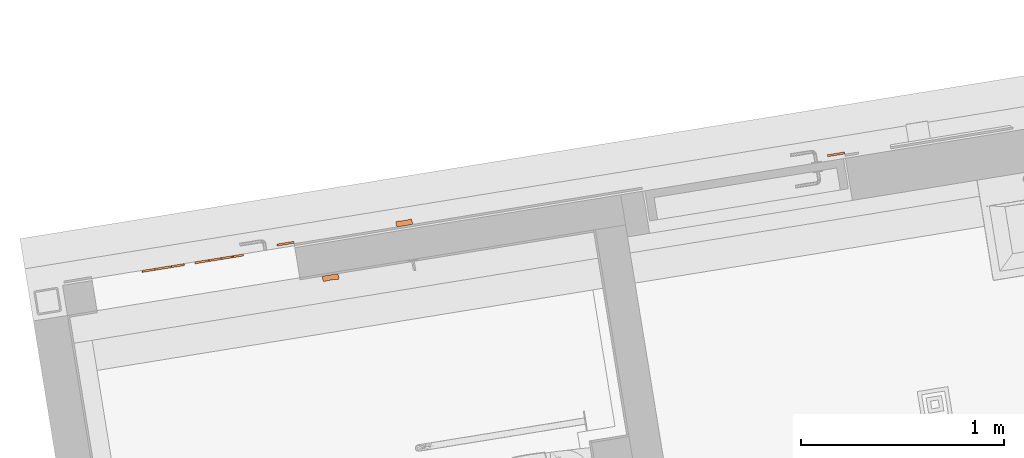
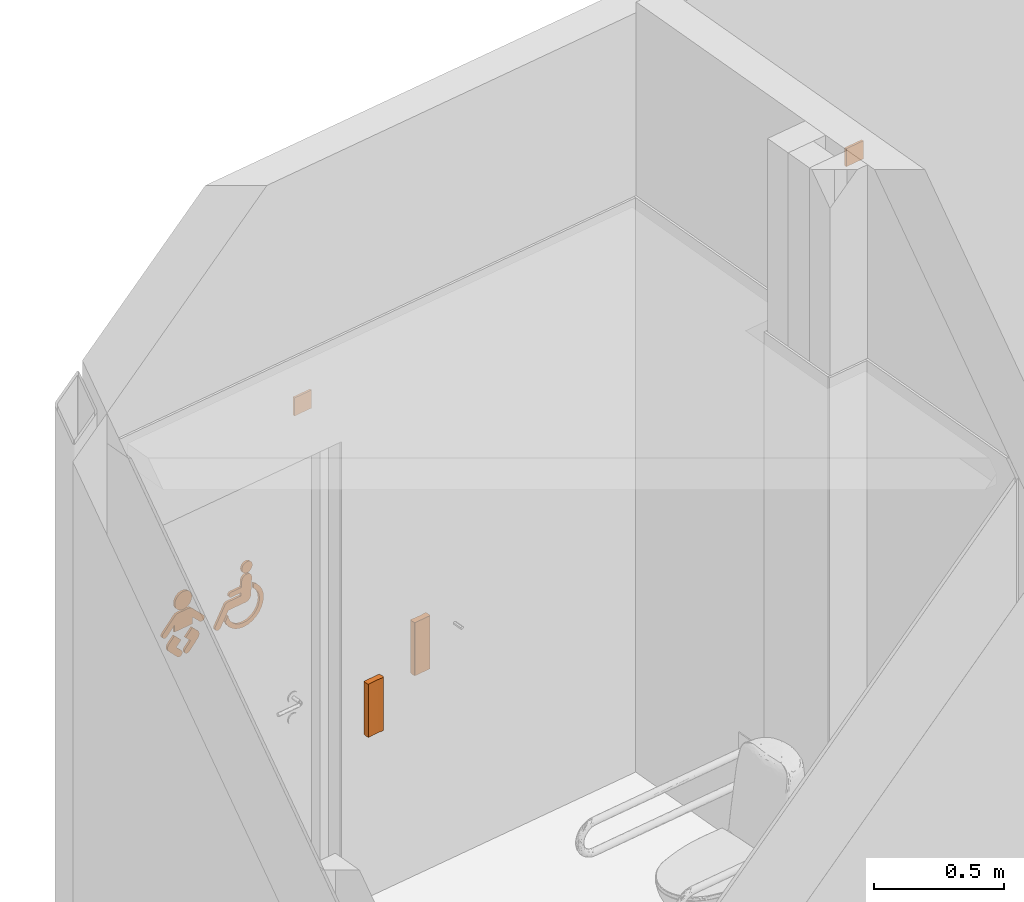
# One storey, part 38 of 38: 6 proxies.
"""IFC2X3 building model written with IfcOpenShell, lengths in millimetres."""

from ifc_helpers import new_model, entity, si_unit, converted_unit, derived_unit, direction, frame, frame_2d, origin, origin_with_axes, place, context, subcontext, project, spatial, polyline, circle_curve, parameter, trimmed, segment, composite_curve, rectangle, circle, outline, extrude, source, transform, mapped, material, material_list, type_object, element, save


model = new_model("IFC2X3")

# Units and contexts
model_context = context("Model", 3, precision=0.01, world=origin(), true_north=direction((6.12323399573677e-17, 1.0)))
plan_context = context("Plan", 3, precision=1e-05, world=origin_with_axes())
body_context = subcontext(model_context, "Body", "Model", "MODEL_VIEW")
ifc_project = project(units=[converted_unit("PLANEANGLEUNIT", "DEGREE", entity("IfcPositiveLengthMeasure", 0.0174532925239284), si_unit("PLANEANGLEUNIT", "RADIAN"), dimensions=[0, 0, 0, 0, 0, 0, 0]), si_unit("AREAUNIT", "SQUARE_METRE"), si_unit("LENGTHUNIT", "METRE", prefix="MILLI"), si_unit("MASSUNIT", "GRAM", prefix="KILO"), si_unit("POWERUNIT", "WATT"), si_unit("PRESSUREUNIT", "PASCAL", prefix="KILO"), si_unit("FORCEUNIT", "NEWTON", prefix="KILO"), si_unit("ELECTRICVOLTAGEUNIT", "VOLT"), si_unit("ELECTRICCURRENTUNIT", "AMPERE"), si_unit("THERMODYNAMICTEMPERATUREUNIT", "DEGREE_CELSIUS"), si_unit("TIMEUNIT", "SECOND"), si_unit("VOLUMEUNIT", "CUBIC_METRE"), derived_unit("LINEARVELOCITYUNIT", [(si_unit("LENGTHUNIT", "METRE"), 1), (si_unit("TIMEUNIT", "SECOND"), -1)]), derived_unit("VOLUMETRICFLOWRATEUNIT", [(si_unit("VOLUMEUNIT", "CUBIC_METRE"), 1), (si_unit("TIMEUNIT", "SECOND"), -1)]), derived_unit("THERMALTRANSMITTANCEUNIT", [(si_unit("POWERUNIT", "WATT"), 1), (si_unit("THERMODYNAMICTEMPERATUREUNIT", "KELVIN"), -1), (si_unit("AREAUNIT", "SQUARE_METRE"), -1)]), derived_unit("SOUNDPRESSUREUNIT", [(si_unit("PRESSUREUNIT", "PASCAL"), 1)])], contexts=[model_context, plan_context])

# Site, building, storey
site_placement = place(None, frame((-0.00071070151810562, 0.00438415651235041, 0.0), z_axis=(0.0, 0.0, 1.0), x_axis=(-0.160236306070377, 0.987078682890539, 0.0)))
site = spatial("IfcSite", under=ifc_project, at=site_placement, Name="Default", CompositionType="ELEMENT")
building_placement = place(site_placement, origin_with_axes())
building = spatial("IfcBuilding", under=site, at=building_placement, Name="TOO", CompositionType="ELEMENT")
storey_placement = place(building_placement, frame((0.0, 0.0, 50999.9999999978), z_axis=(0.0, 0.0, 1.0), x_axis=(1.0, 0.0, 0.0)))
storey = spatial("IfcBuildingStorey", under=building, at=storey_placement, Name="Nivå D-H01", CompositionType="ELEMENT", Elevation=50999.9999999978)

# Proxies
ifc_material_1 = material(Name="<Unnamed>")
building_element_proxy_type_1 = type_object("IfcBuildingElementProxyType", Name="274-stikkontakt (306):274-stikkontakt (306)", PredefinedType="NOTDEFINED", material=ifc_material_1)
shared_shape_1 = source(origin(), body_context, "Body", "SweptSolid", [
    extrude(rectangle(XDim=85.0, YDim=9.99999999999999, at=frame_2d((1.06581410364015e-14, 0.0), x_axis=(1.0, 0.0))), frame((125.0, 11.5, 1000.0), z_axis=(0.0, 0.0, 1.0), x_axis=(-1.0, 0.0, 0.0)), (0.0, 0.0, 1.0), 84.9999999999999),
])
for number, where, z_axis, x_axis in (
    (1, (779957.619644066, -590052.138231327, 1260.0), (0.0, 0.0, 1.0), (0.0, -1.0, 0.0)),
    (2, (779957.619644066, -592794.98173883, 1217.50000000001), (0.0, 0.0, 1.0), (0.0, -1.0, 0.0)),
):
    element("IfcBuildingElementProxy", number, at=place(storey_placement, frame(where, z_axis=z_axis, x_axis=x_axis)), inside=storey, type_object=building_element_proxy_type_1, material=ifc_material_1, Name="274-stikkontakt (306):274-stikkontakt (306)", ObjectType="274-stikkontakt (306):274-stikkontakt (306)", context=body_context, shape_type="MappedRepresentation", body=[
        mapped(shared_shape_1, transform((0.0, 0.0, 0.0), scale=1.0)),
    ])
ifc_material_2 = material(Name="Ramme Plast")
ifc_material_list = material_list([ifc_material_2, ifc_material_1])
building_element_proxy_type_2 = type_object("IfcBuildingElementProxyType", Name="244 - Albuebryter:244 - Albuebryter", PredefinedType="NOTDEFINED", material=ifc_material_list)
shared_shape_2 = source(origin(), body_context, "Body", "SweptSolid", [
    extrude(outline(composite_curve([segment(polyline([(-35.6080774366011, -13.960071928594), (35.6080774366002, -13.960071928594)]), True, "CONTINUOUS"), segment(trimmed(circle_curve(frame_2d((35.6080774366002, -11.2130308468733), x_axis=(-1.0, 0.0)), 2.74704108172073), [parameter(90.0000000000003)], [parameter(163.367572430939)], True, "PARAMETER"), True, "CONTINUOUS"), segment(trimmed(circle_curve(frame_2d((-2.06133847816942, 0.0399280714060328), x_axis=(-1.0, 0.0)), 42.061338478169), [parameter(163.367572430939)], [parameter(196.761246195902)], True, "PARAMETER"), True, "CONTINUOUS"), segment(trimmed(circle_curve(frame_2d((36.0078940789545, 11.5056162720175), x_axis=(-1.0, 0.0)), 2.30296233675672), [parameter(196.761246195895)], [parameter(277.35380585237)], True, "PARAMETER"), True, "CONTINUOUS"), segment(trimmed(circle_curve(frame_2d((0.0, 290.512064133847), x_axis=(-1.0, 0.0)), 279.017435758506), [parameter(82.6461941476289)], [parameter(97.3538058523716)], True, "PARAMETER"), False, "CONTINUOUS"), segment(trimmed(circle_curve(frame_2d((-36.0078940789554, 11.5056162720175), x_axis=(1.0, 0.0)), 2.30296233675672), [parameter(82.6461941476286)], [parameter(163.238753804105)], True, "PARAMETER"), True, "CONTINUOUS"), segment(trimmed(circle_curve(frame_2d((2.06133847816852, 0.0399280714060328), x_axis=(1.0, 0.0)), 42.061338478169), [parameter(163.238753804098)], [parameter(196.632427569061)], True, "PARAMETER"), True, "CONTINUOUS"), segment(trimmed(circle_curve(frame_2d((-35.6080774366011, -11.2130308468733), x_axis=(1.0, 0.0)), 2.74704108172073), [parameter(196.632427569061)], [parameter(270.0)], True, "PARAMETER"), True, "CONTINUOUS")], self_intersect=False)), frame((0.0, -13.9600719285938, 117.0), z_axis=(0.0, 0.0, 1.0), x_axis=(-1.0, 0.0, 0.0)), (0.0, 0.0, 1.0), 8.00000000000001),
    extrude(outline(composite_curve([segment(polyline([(-35.6080774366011, -13.960071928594), (35.6080774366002, -13.960071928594)]), True, "CONTINUOUS"), segment(trimmed(circle_curve(frame_2d((35.6080774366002, -11.2130308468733), x_axis=(-1.0, 0.0)), 2.74704108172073), [parameter(90.0000000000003)], [parameter(163.367572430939)], True, "PARAMETER"), True, "CONTINUOUS"), segment(trimmed(circle_curve(frame_2d((-2.06133847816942, 0.0399280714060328), x_axis=(-1.0, 0.0)), 42.061338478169), [parameter(163.367572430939)], [parameter(196.761246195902)], True, "PARAMETER"), True, "CONTINUOUS"), segment(trimmed(circle_curve(frame_2d((36.0078940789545, 11.5056162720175), x_axis=(-1.0, 0.0)), 2.30296233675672), [parameter(196.761246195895)], [parameter(277.35380585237)], True, "PARAMETER"), True, "CONTINUOUS"), segment(trimmed(circle_curve(frame_2d((0.0, 290.512064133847), x_axis=(-1.0, 0.0)), 279.017435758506), [parameter(82.6461941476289)], [parameter(97.3538058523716)], True, "PARAMETER"), False, "CONTINUOUS"), segment(trimmed(circle_curve(frame_2d((-36.0078940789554, 11.5056162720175), x_axis=(1.0, 0.0)), 2.30296233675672), [parameter(82.6461941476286)], [parameter(163.238753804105)], True, "PARAMETER"), True, "CONTINUOUS"), segment(trimmed(circle_curve(frame_2d((2.06133847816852, 0.0399280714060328), x_axis=(1.0, 0.0)), 42.061338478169), [parameter(163.238753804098)], [parameter(196.632427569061)], True, "PARAMETER"), True, "CONTINUOUS"), segment(trimmed(circle_curve(frame_2d((-35.6080774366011, -11.2130308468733), x_axis=(1.0, 0.0)), 2.74704108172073), [parameter(196.632427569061)], [parameter(270.0)], True, "PARAMETER"), True, "CONTINUOUS")], self_intersect=False)), frame((0.0, -13.9600719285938, -117.0), z_axis=(0.0, 0.0, 1.0), x_axis=(-1.0, 0.0, 0.0)), (0.0, 0.0, 1.0), 234.0),
    extrude(outline(composite_curve([segment(polyline([(-35.6080774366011, -13.960071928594), (35.6080774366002, -13.960071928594)]), True, "CONTINUOUS"), segment(trimmed(circle_curve(frame_2d((35.6080774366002, -11.2130308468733), x_axis=(-1.0, 0.0)), 2.74704108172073), [parameter(90.0000000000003)], [parameter(163.367572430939)], True, "PARAMETER"), True, "CONTINUOUS"), segment(trimmed(circle_curve(frame_2d((-2.06133847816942, 0.0399280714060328), x_axis=(-1.0, 0.0)), 42.061338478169), [parameter(163.367572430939)], [parameter(196.761246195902)], True, "PARAMETER"), True, "CONTINUOUS"), segment(trimmed(circle_curve(frame_2d((36.0078940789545, 11.5056162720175), x_axis=(-1.0, 0.0)), 2.30296233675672), [parameter(196.761246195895)], [parameter(277.35380585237)], True, "PARAMETER"), True, "CONTINUOUS"), segment(trimmed(circle_curve(frame_2d((0.0, 290.512064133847), x_axis=(-1.0, 0.0)), 279.017435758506), [parameter(82.6461941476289)], [parameter(97.3538058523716)], True, "PARAMETER"), False, "CONTINUOUS"), segment(trimmed(circle_curve(frame_2d((-36.0078940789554, 11.5056162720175), x_axis=(1.0, 0.0)), 2.30296233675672), [parameter(82.6461941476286)], [parameter(163.238753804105)], True, "PARAMETER"), True, "CONTINUOUS"), segment(trimmed(circle_curve(frame_2d((2.06133847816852, 0.0399280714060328), x_axis=(1.0, 0.0)), 42.061338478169), [parameter(163.238753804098)], [parameter(196.632427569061)], True, "PARAMETER"), True, "CONTINUOUS"), segment(trimmed(circle_curve(frame_2d((-35.6080774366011, -11.2130308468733), x_axis=(1.0, 0.0)), 2.74704108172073), [parameter(196.632427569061)], [parameter(270.0)], True, "PARAMETER"), True, "CONTINUOUS")], self_intersect=False)), frame((0.0, -13.9600719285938, -125.0), z_axis=(0.0, 0.0, 1.0), x_axis=(-1.0, 0.0, 0.0)), (0.0, 0.0, 1.0), 8.00000000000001),
])
for number, where, z_axis, x_axis, name in (
    (3, (779962.619644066, -590769.638231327, 900.0), (0.0, 0.0, 1.0), (0.0, 1.0, 0.0), "244 - Albuebryter:244 - Albuebryter"),
    (4, (779782.619644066, -590369.638231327, 900.0), (0.0, 0.0, 1.0), (0.0, -1.0, 0.0), "244 - Albuebryter:244 - Albuebryter"),
):
    element("IfcBuildingElementProxy", number, at=place(storey_placement, frame(where, z_axis=z_axis, x_axis=x_axis)), inside=storey, type_object=building_element_proxy_type_2, material=ifc_material_list, Name=name, ObjectType="244 - Albuebryter:244 - Albuebryter", context=body_context, shape_type="MappedRepresentation", body=[
        mapped(shared_shape_2, transform((0.0, 0.0, 0.0), scale=1.0)),
    ])
building_element_proxy_type_3 = type_object("IfcBuildingElementProxyType", Name="A275 - 3D FOLIE PIKTOGRAM HCWC:A275 - 3D FOLIE PIKTOGRAM HCWC", PredefinedType="NOTDEFINED", material=ifc_material_1)
shared_shape_3 = source(origin(), body_context, "Body", "SweptSolid", [
    extrude(circle(Radius=26.3594735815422, at=frame_2d((-2.11497486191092e-15, -6.76791955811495e-14), x_axis=(1.0, 0.0))), frame((-16.9408720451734, -10.0, 273.640526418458), z_axis=(0.0, 1.0, 0.0), x_axis=(1.0, 0.0, 0.0)), (0.0, 0.0, 1.0), 10.0),
    extrude(outline(polyline([(32.6332547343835, -94.8801584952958), (61.4908033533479, -94.8801584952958), (71.9215286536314, -78.2820327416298), (78.8409696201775, -60.1145728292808), (82.1007420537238, -40.9611066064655), (81.5524617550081, -21.4049619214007), (77.0477445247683, -2.02946662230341), (68.438206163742, 16.5820514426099), (54.5829998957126, 34.784209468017), (37.519333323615, 48.9128075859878), (18.0625142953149, 58.7601605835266), (-2.97214934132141, 64.1185832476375), (-24.769349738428, 64.7803903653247), (-46.5137790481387, 60.5378967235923), (-67.3901294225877, 51.1834171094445), (-84.5107995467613, 38.3544674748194), (-98.0908753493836, 22.6823320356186), (-107.96176351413, 4.83000585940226), (-113.954870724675, -14.5395159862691), (-115.901603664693, -34.763238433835), (-94.4519239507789, -23.5418199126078), (-90.2685838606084, -6.78559889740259), (-82.4871510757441, 8.7204429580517), (-71.2752156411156, 22.3190966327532), (-56.8003676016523, 33.3531531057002), (-40.2930775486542, 40.7496646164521), (-23.0986198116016, 44.1041123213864), (-5.86194416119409, 43.5806932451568), (10.771999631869, 39.3436044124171), (26.1582617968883, 31.557042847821), (39.6518925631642, 20.3852055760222), (50.6079421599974, 5.99228962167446), (57.5100168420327, -9.0001078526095), (61.0492014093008, -24.60941398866), (61.3492524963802, -40.3490740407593), (58.5339267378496, -55.7325332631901), (52.7269807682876, -70.2732369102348), (44.0521712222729, -83.4846302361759), (32.6332547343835, -94.8801584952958)])), frame((-20.6906925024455, -10.0, 67.310086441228), z_axis=(0.0, 1.0, 0.0), x_axis=(0.510647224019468, 0.0, -0.859790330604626)), (0.0, 0.0, 1.0), 10.0),
    extrude(outline(polyline([(-24.3814506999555, -35.4671127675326), (61.0721517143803, -35.4671127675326), (66.8822102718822, -34.8952009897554), (72.2819885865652, -33.1955814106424), (77.1241539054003, -30.4737174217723), (81.2613734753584, -26.8350724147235), (84.5463145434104, -22.3851097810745), (86.831644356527, -17.2292929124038), (87.9700301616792, -11.4730852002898), (92.5448372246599, 68.572490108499), (92.1652282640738, 74.4451782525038), (90.5409537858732, 79.9109238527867), (87.8089977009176, 84.8078978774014), (84.1063439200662, 88.9742712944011), (79.5699763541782, 92.2482150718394), (74.336878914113, 94.4679001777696), (68.5440355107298, 95.4714975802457), (62.6787502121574, 95.1256243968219), (57.230262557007, 93.5006817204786), (52.352975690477, 90.7477744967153), (48.2012927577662, 87.0180076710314), (44.9296169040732, 82.4624861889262), (42.6923512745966, 77.2323149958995), (41.6438990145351, 71.4785990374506), (39.9729428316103, 43.9010478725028), (-9.31574846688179, 43.9123381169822), (-12.1055382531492, 43.5091019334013), (-14.6445068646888, 42.5738088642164), (-16.8676382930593, 41.1638910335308), (-18.7099165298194, 39.3367805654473), (-20.1063255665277, 37.1499095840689), (-20.9918493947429, 34.660710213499), (-21.3014720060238, 31.9266145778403), (-20.9849764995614, 29.1992733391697), (-20.0834159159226, 26.7258342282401), (-18.6686791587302, 24.5569749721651), (-16.8126551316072, 22.7433732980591), (-14.5872327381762, 21.3357069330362), (-12.0643008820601, 20.384653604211), (-9.31574846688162, 19.9408910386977), (38.6113393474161, 19.952181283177), (37.8955378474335, 4.97002685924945), (-28.0123933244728, 4.97002685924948), (-31.0329763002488, 4.58023342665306), (-33.9150415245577, 3.60808015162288), (-36.5666773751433, 2.07708687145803), (-38.8959722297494, 0.0107734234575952), (-40.8110144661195, -2.56734035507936), (-88.7381022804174, -83.3016205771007), (-90.1083627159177, -86.6292209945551), (-90.7356394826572, -90.0412711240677), (-90.6378653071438, -93.4248026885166), (-89.8329729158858, -96.6668474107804), (-88.3388950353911, -99.6544370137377), (-86.1735643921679, -102.274603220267), (-83.3549137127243, -104.414377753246), (-80.5190997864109, -105.713355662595), (-77.5601604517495, -106.377469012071), (-74.5677208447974, -106.442493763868), (-71.6314061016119, -105.94420588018), (-68.8408413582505, -104.918381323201), (-66.2856517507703, -103.400796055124), (-64.0554624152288, -101.427226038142), (-62.2398984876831, -99.0334472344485), (-24.3814506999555, -35.4671127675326)])), frame((52.0241497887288, -10.0, 146.88827748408), z_axis=(0.0, 1.0, 0.0), x_axis=(-1.0, 0.0, 0.0)), (0.0, 0.0, 1.0), 10.0),
])
proxy_1_placement = place(storey_placement, frame((779942.619644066, -589864.638231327, 1400.0), z_axis=(0.0, 0.0, 1.0), x_axis=(0.0, 1.0, 0.0)))
element("IfcBuildingElementProxy", 5, at=proxy_1_placement, inside=storey, type_object=building_element_proxy_type_3, material=ifc_material_1, Name="A275 - 3D FOLIE PIKTOGRAM HCWC:A275 - 3D FOLIE PIKTOGRAM HCWC", ObjectType="A275 - 3D FOLIE PIKTOGRAM HCWC:A275 - 3D FOLIE PIKTOGRAM HCWC", context=body_context, shape_type="MappedRepresentation", body=[
    mapped(shared_shape_3, transform((0.0, 0.0, 0.0), scale=1.0)),
])
building_element_proxy_type_4 = type_object("IfcBuildingElementProxyType", Name="A275 - 3D FOLIE PIKTOGRAM stellebord:A275 - 3D FOLIE PIKTOGRAM stellebord", PredefinedType="NOTDEFINED", material=ifc_material_1)
shared_shape_4 = source(origin(), body_context, "Body", "SweptSolid", [
    extrude(outline(polyline([(-13.5286864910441, -12.455231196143), (22.2039567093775, -12.455231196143), (25.9176750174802, -12.1226675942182), (29.1470177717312, -11.1817970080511), (31.8893227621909, -9.72015505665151), (34.1420000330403, -7.82290158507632), (35.9023022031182, -5.58037271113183), (37.1676287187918, -3.07807674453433), (37.9354112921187, -0.400461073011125), (38.2029638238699, 2.36415318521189), (37.9675927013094, 5.1271978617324), (37.226696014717, 7.80312005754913), (35.9776715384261, 10.3063564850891), (34.2178434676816, 12.5489245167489), (31.9445795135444, 14.4442723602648), (29.1552372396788, 15.9055145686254), (25.8471944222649, 16.8464302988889), (22.0177714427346, 17.1789115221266), (-35.6225332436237, 16.0526772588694), (-40.2289240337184, 15.5688163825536), (-44.7524231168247, 14.2564561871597), (-49.0304191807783, 12.1898641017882), (-52.8952370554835, 9.44562030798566), (-56.1883459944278, 6.09612856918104), (-58.7407910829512, 2.21855354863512), (-60.3942563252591, -2.11479907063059), (-60.9802201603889, -6.82696254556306), (-61.0046854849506, -47.2971707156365), (-13.4963425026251, -47.2971707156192), (-13.5286864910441, -12.455231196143)])), frame((-35.0607637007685, 0.0, 33.8880374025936), z_axis=(0.0, 1.0, 0.0), x_axis=(0.707106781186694, 0.0, -0.707106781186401)), (0.0, 0.0, 1.0), 10.0),
    extrude(circle(Radius=42.27626885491, at=frame_2d((1.58623114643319e-15, -2.03037586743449e-13), x_axis=(1.0, 0.0))), frame((0.0, 0.0, 257.863541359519), z_axis=(0.0, 1.0, 0.0), x_axis=(1.0, 0.0, 0.0)), (0.0, 0.0, 1.0), 10.0),
    extrude(outline(polyline([(-20.1539650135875, 46.4685404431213), (-20.1539650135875, -42.6525321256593), (12.2942145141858, -42.6525321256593), (-22.8573935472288, -77.7232132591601), (-25.0211058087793, -80.1386341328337), (-26.5803596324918, -82.6456051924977), (-27.5764504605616, -85.1992889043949), (-28.0506737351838, -87.7548477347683), (-28.0443248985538, -90.267444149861), (-27.5986993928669, -92.6922406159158), (-26.7550926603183, -94.9843995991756), (-25.5548001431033, -97.0990835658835), (-24.0391172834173, -98.9914549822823), (-22.2493395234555, -100.616676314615), (-20.2267623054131, -101.929910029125), (-18.0126810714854, -102.886318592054), (-15.6483912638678, -103.441064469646), (-13.1751883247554, -103.549310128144), (-10.6343676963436, -103.166218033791), (-8.06722482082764, -102.246950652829), (-5.51505514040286, -100.746670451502), (-3.0191540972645, -98.6205398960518), (54.2430980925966, -41.4497703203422), (56.8020544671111, -38.5210130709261), (58.8741825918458, -35.3424379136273), (60.4124744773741, -31.8208733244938), (61.3699221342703, -27.8631477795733), (61.6995175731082, -23.3760897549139), (61.6995175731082, 27.3750633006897), (61.3611398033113, 31.8249606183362), (60.386127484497, 35.6884966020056), (58.83466210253, 39.0858371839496), (56.766925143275, 42.1371482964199), (54.2430980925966, 44.962595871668), (-2.46380771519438, 101.5604262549), (-5.23043512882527, 103.919865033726), (-8.0387295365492, 105.574979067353), (-10.8403484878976, 106.576899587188), (-13.5869495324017, 106.97675782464), (-16.2301902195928, 106.825685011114), (-18.7217280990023, 106.174812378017), (-21.0132207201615, 105.075271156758), (-23.0563256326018, 103.578192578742), (-24.8027003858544, 101.734707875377), (-26.2040025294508, 99.5959482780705), (-27.2118896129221, 97.2130450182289), (-27.7780191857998, 94.6371293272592), (-27.8540487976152, 91.9193324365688), (-27.3916359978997, 89.1107855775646), (-26.3424383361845, 86.2626199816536), (-24.6581133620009, 83.4259668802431), (-22.2903186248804, 80.6519575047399), (12.1165271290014, 46.4685404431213), (-20.1539650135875, 46.4685404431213)])), frame((1.71510009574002, 0.0, 147.362538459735), z_axis=(0.0, -1.0, 0.0), x_axis=(0.0, 0.0, 1.0)), (0.0, 0.0, -1.0), 10.0),
    extrude(outline(polyline([(14.5926118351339, -47.3751407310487), (62.1009548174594, -47.3751407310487), (62.0769041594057, -6.90451789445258), (61.4911588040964, -2.1926524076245), (59.8395493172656, 2.13971108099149), (57.2846870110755, 6.0183051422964), (53.994247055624, 9.36654959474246), (50.126760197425, 12.1120406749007), (45.8511813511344, 14.1776137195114), (41.3258265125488, 15.4909630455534), (36.7192172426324, 15.9751219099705), (-20.9256487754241, 17.0967948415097), (-24.5436045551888, 16.8030458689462), (-27.6996324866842, 15.9648778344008), (-30.3959774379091, 14.6562792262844), (-32.6347933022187, 12.9482401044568), (-34.4184473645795, 10.9187836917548), (-35.7489221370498, 8.63325150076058), (-36.6283281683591, 6.16120499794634), (-37.0592053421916, 3.58635607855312), (-37.0436830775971, 0.978888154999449), (-36.5837527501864, -1.59556512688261), (-35.6816533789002, -4.06320805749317), (-34.3396567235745, -6.34916582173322), (-32.5599332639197, -8.38190169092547), (-30.3446787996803, -10.0890444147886), (-27.6960891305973, -11.3982227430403), (-24.6163600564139, -12.2370654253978), (-21.1076873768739, -12.533201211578), (14.6249558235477, -12.5332012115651), (14.5926118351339, -47.3751407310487)])), frame((33.7713575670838, 0.0, 33.057724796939), z_axis=(0.0, 1.0, 0.0), x_axis=(0.707106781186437, 0.0, 0.707106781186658)), (0.0, 0.0, 1.0), 10.0),
])
proxy_2_placement = place(storey_placement, frame((779952.619644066, -589564.638231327, 1400.0), z_axis=(0.0, 0.0, 1.0), x_axis=(0.0, 1.0, 0.0)))
element("IfcBuildingElementProxy", 6, at=proxy_2_placement, inside=storey, type_object=building_element_proxy_type_4, material=ifc_material_1, Name="A275 - 3D FOLIE PIKTOGRAM stellebord:A275 - 3D FOLIE PIKTOGRAM stellebord", ObjectType="A275 - 3D FOLIE PIKTOGRAM stellebord:A275 - 3D FOLIE PIKTOGRAM stellebord", context=body_context, shape_type="MappedRepresentation", body=[
    mapped(shared_shape_4, transform((0.0, 0.0, 0.0), scale=1.0)),
])

save(model, "model.ifc")
